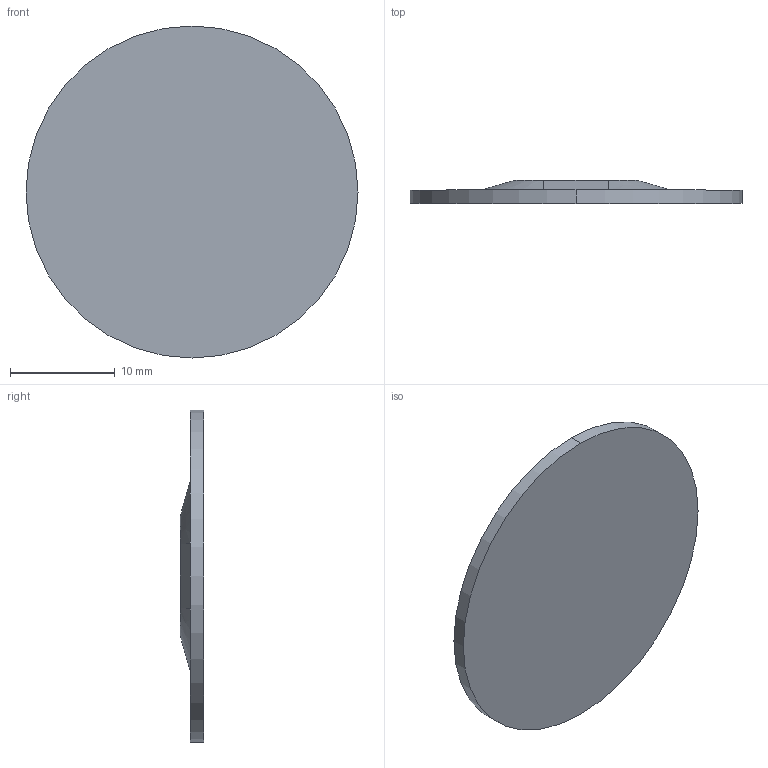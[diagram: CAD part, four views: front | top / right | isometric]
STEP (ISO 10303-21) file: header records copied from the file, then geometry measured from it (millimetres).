
FILE_DESCRIPTION (( 'STEP AP203' ), '1' );
FILE_NAME ('1490800-40.STEP', '2024-11-18T15:10:36', ( '' ), ( '' ), 'SwSTEP 2.0', 'SolidWorks 2024', '' );
FILE_SCHEMA (( 'CONFIG_CONTROL_DESIGN' ));
Length unit declared in the file: inch
Products named in the file (1): 1490800-40
Bounding box: 31.75 x 2.21 x 31.75 mm (x, y, z)
Surface area: 2515.4 mm2 (no closed solid volume)
Topology: 0 solids, 2 shells, 55 faces, 120 edges, 70 vertices
Faces by surface type: cylinder 18, torus 16, plane 13, cone 8
Entity records: 1580 total; most frequent: DIRECTION 302, CARTESIAN_POINT 246, ORIENTED_EDGE 238, AXIS2_PLACEMENT_3D 126, EDGE_CURVE 120, VERTEX_POINT 70, CIRCLE 70, EDGE_LOOP 57
